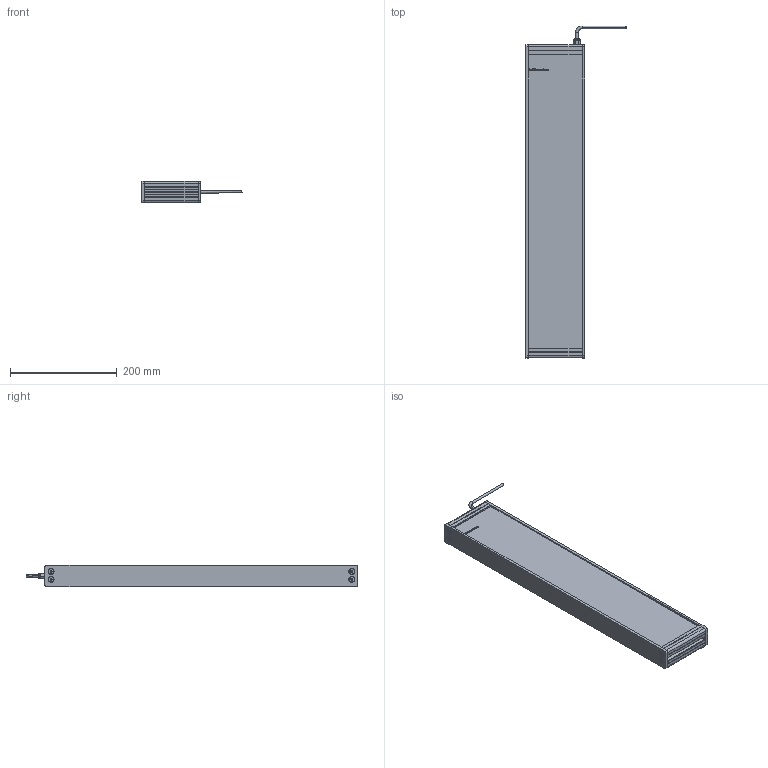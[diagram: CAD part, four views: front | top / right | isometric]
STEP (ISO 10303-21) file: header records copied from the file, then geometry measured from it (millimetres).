
FILE_DESCRIPTION (( 'STEP AP214' ), '1' );
FILE_NAME ('EFFI-BL-100T-550-1M12.STEP', '2021-06-28T08:37:26', ( '' ), ( '' ), 'SwSTEP 2.0', 'SolidWorks 2021', '' );
FILE_SCHEMA (( 'AUTOMOTIVE_DESIGN' ));
Length unit declared in the file: millimetre
Products named in the file (7): Pièce2^EFFI-BL-XXXT-YYY + M12; profile modif_lg 99.5 mm; bord fin modif_lg 436.5 mm; 003776; cordon_Avec cable; EFFI-BL-100T-550-1M12
Assembly tree (14 placements, depth 2):
  EFFI-BL-100T-550-1M12
    profile modif_lg 99.5 mm
    bord fin modif_lg 436.5 mm  x2
    Pièce2^EFFI-BL-XXXT-YYY + M12
    profile modif_lg 99.5 mm
    003776  x8
    cordon_Avec cable
Bounding box: 187.13 x 621.15 x 40 mm (x, y, z)
Volume: 2253902.2 mm3; surface area: 299431.3 mm2
Topology: 13 solids, 19 shells, 629 faces, 1602 edges, 1029 vertices
Faces by surface type: plane 325, bspline 180, cylinder 96, cone 18, torus 10
Entity records: 19192 total; most frequent: CARTESIAN_POINT 7634, ORIENTED_EDGE 2332, DIRECTION 1838, EDGE_CURVE 1170, LINE 794, VECTOR 794, VERTEX_POINT 772, AXIS2_PLACEMENT_3D 522
